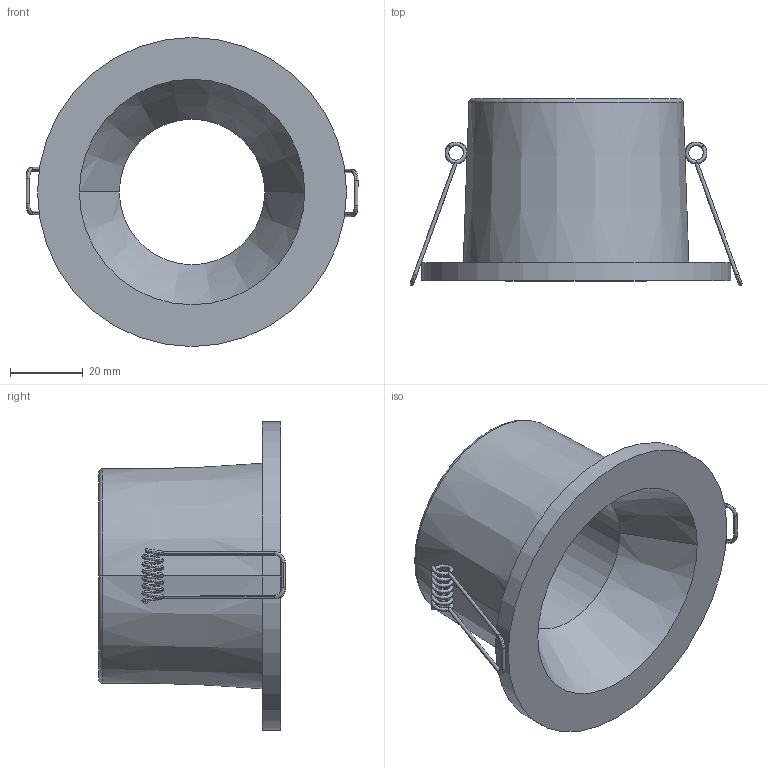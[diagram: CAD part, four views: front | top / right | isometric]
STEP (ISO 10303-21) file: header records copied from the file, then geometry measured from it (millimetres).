
FILE_DESCRIPTION (( 'STEP AP214' ), '1' );
FILE_NAME ('EnsamblajeFOCO 1.STEP', '2026-02-13T12:44:26', ( '' ), ( '' ), 'SwSTEP 2.0', 'SolidWorks 2023', '' );
FILE_SCHEMA (( 'AUTOMOTIVE_DESIGN' ));
Length unit declared in the file: millimetre
Products named in the file (3): EnsamblajeFOCO 1; FOCO1; PINZA
Assembly tree (3 placements, depth 2):
  EnsamblajeFOCO 1
    FOCO1
    PINZA  x2
Bounding box: 91.28 x 51.23 x 85 mm (x, y, z)
Volume: 79308.8 mm3; surface area: 25198.2 mm2
Topology: 3 solids, 3 shells, 41 faces, 118 edges, 80 vertices
Faces by surface type: cylinder 16, torus 10, plane 7, cone 4, bspline 4
Entity records: 3316 total; most frequent: CARTESIAN_POINT 2541, DIRECTION 160, ORIENTED_EDGE 144, AXIS2_PLACEMENT_3D 73, EDGE_CURVE 72, VERTEX_POINT 48, CIRCLE 42, EDGE_LOOP 30
